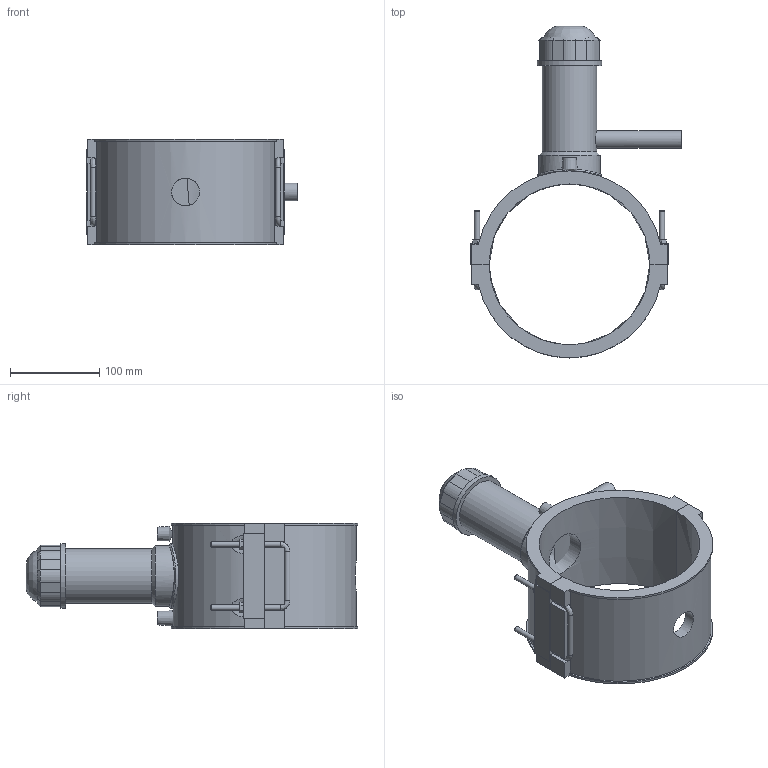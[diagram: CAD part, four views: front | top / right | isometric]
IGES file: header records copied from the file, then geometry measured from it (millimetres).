
Global section: file name: 496304180020.ipt; native system: Autodesk Inventor 2015; preprocessor: unknown; author: KIM; date: 20190124.131051; units: millimetre
Bounding box: 235.5 x 371.65 x 118 mm (x, y, z)
Volume: 1252826 mm3; surface area: 254038.3 mm2
Topology: 2 solids, 2 shells, 184 faces, 467 edges, 302 vertices
Faces by surface type: plane 110, cylinder 34, revolution 20, cone 15, bspline 5
Full cylindrical faces by diameter (mm): 4 x2, 6 x10, 20 x1, 61.2 x1, 68.4 x1, 72 x2
